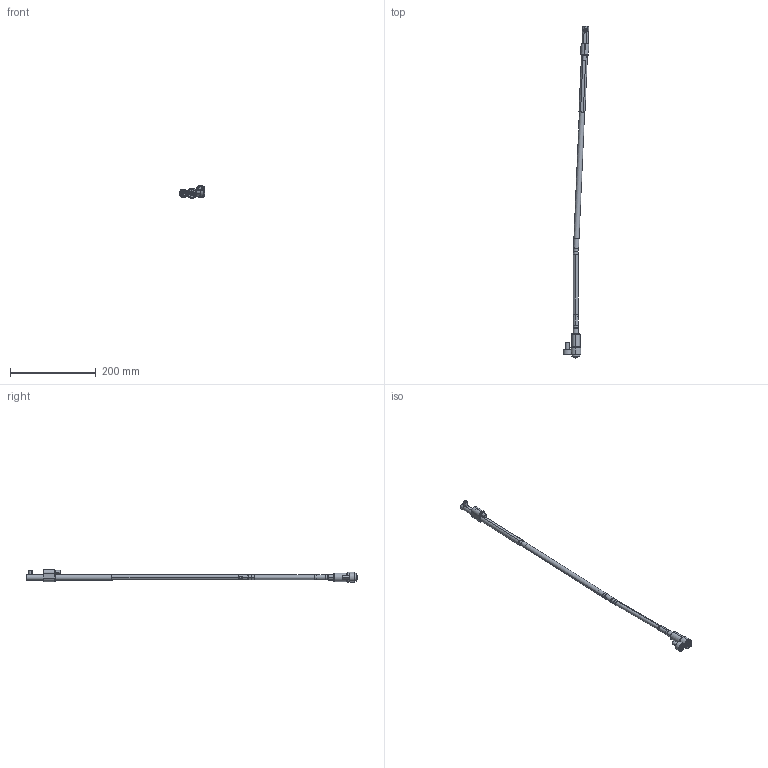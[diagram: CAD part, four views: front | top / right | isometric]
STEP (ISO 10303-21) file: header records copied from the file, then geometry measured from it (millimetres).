
FILE_DESCRIPTION (( 'STEP AP214' ), '1' );
FILE_NAME ('WL120125-INJ 2,5°.STEP', '2021-03-19T15:39:33', ( '' ), ( '' ), 'SwSTEP 2.0', 'SolidWorks 2019', '' );
FILE_SCHEMA (( 'AUTOMOTIVE_DESIGN' ));
Length unit declared in the file: millimetre
Products named in the file (17): Web-WL12-A8; Web-WL12-A1; 9DR2808-TOR; Web-WL12-F00.SLDPRT; 8WL12EJEP; WL120100-E; Web-WL12-A3; WL120125-INJ 2,5°; Web-WL12-F01; 3IMAN5X3-150_con sellador; 1DIN912820_DIN 912 M8 x 20 --- 20C; Web-WL12-A2; WL120100-B; Web-WL12-XX_OFF-WL120125-2,5; 1DIN912645_DIN 912 M6 x 45 --- 45C; WL120100-B1; WL120100-D
Assembly tree (16 placements, depth 3):
  WL120125-INJ 2,5°
    Web-WL12-A8
    Web-WL12-XX_OFF-WL120125-2,5
    Web-WL12-A3
    Web-WL12-A2
    Web-WL12-A1
    Web-WL12-F00.SLDPRT
      Web-WL12-F01
      1DIN912820_DIN 912 M8 x 20 --- 20C
      1DIN912645_DIN 912 M6 x 45 --- 45C
    WL120100-D
    8WL12EJEP
    WL120100-E
    9DR2808-TOR
    WL120100-B
      WL120100-B1
      3IMAN5X3-150_con sellador
Bounding box: 59.72 x 772.79 x 29.9 mm (x, y, z)
Volume: 116548.5 mm3; surface area: 51030 mm2
Topology: 15 solids, 15 shells, 432 faces, 906 edges, 525 vertices
Faces by surface type: plane 139, cylinder 123, cone 120, torus 50
Entity records: 13661 total; most frequent: DIRECTION 2240, CARTESIAN_POINT 2104, ORIENTED_EDGE 1788, AXIS2_PLACEMENT_3D 929, EDGE_CURVE 894, VERTEX_POINT 525, EDGE_LOOP 477, CIRCLE 476
